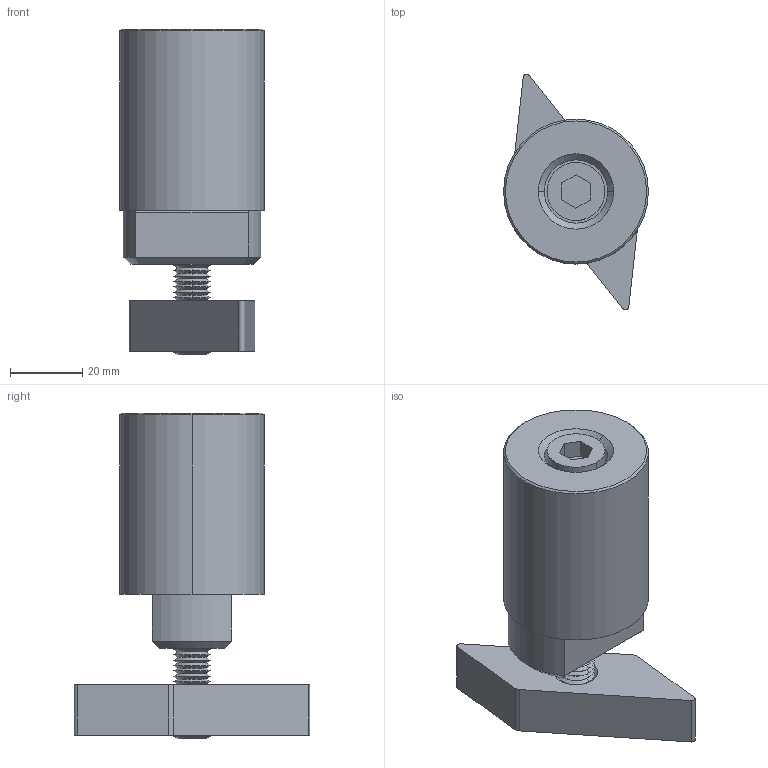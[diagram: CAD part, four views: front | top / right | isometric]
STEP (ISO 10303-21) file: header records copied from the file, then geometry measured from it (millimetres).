
FILE_DESCRIPTION (( 'STEP AP203' ), '1' );
FILE_NAME ('30200.W0222.step', '2017-06-30T11:04:40', ( 'User' ), ( '' ), 'SwSTEP 2.0', 'SolidWorks 2009', '' );
FILE_SCHEMA (( 'CONFIG_CONTROL_DESIGN' ));
Length unit declared in the file: millimetre
Products named in the file (4): screw_M10x80; Part1_30200.W0222; Wedge_30200.W0222; 30200.W0222
Assembly tree (3 placements, depth 2):
  30200.W0222
    Part1_30200.W0222
    Wedge_30200.W0222
    screw_M10x80
Bounding box: 40 x 65.01 x 90 mm (x, y, z)
Volume: 87469.8 mm3; surface area: 21034.3 mm2
Topology: 3 solids, 3 shells, 144 faces, 305 edges, 171 vertices
Faces by surface type: cone 91, plane 34, cylinder 19
Entity records: 4208 total; most frequent: DIRECTION 730, CARTESIAN_POINT 638, ORIENTED_EDGE 610, EDGE_CURVE 305, AXIS2_PLACEMENT_3D 279, VECTOR 172, LINE 172, VERTEX_POINT 171
